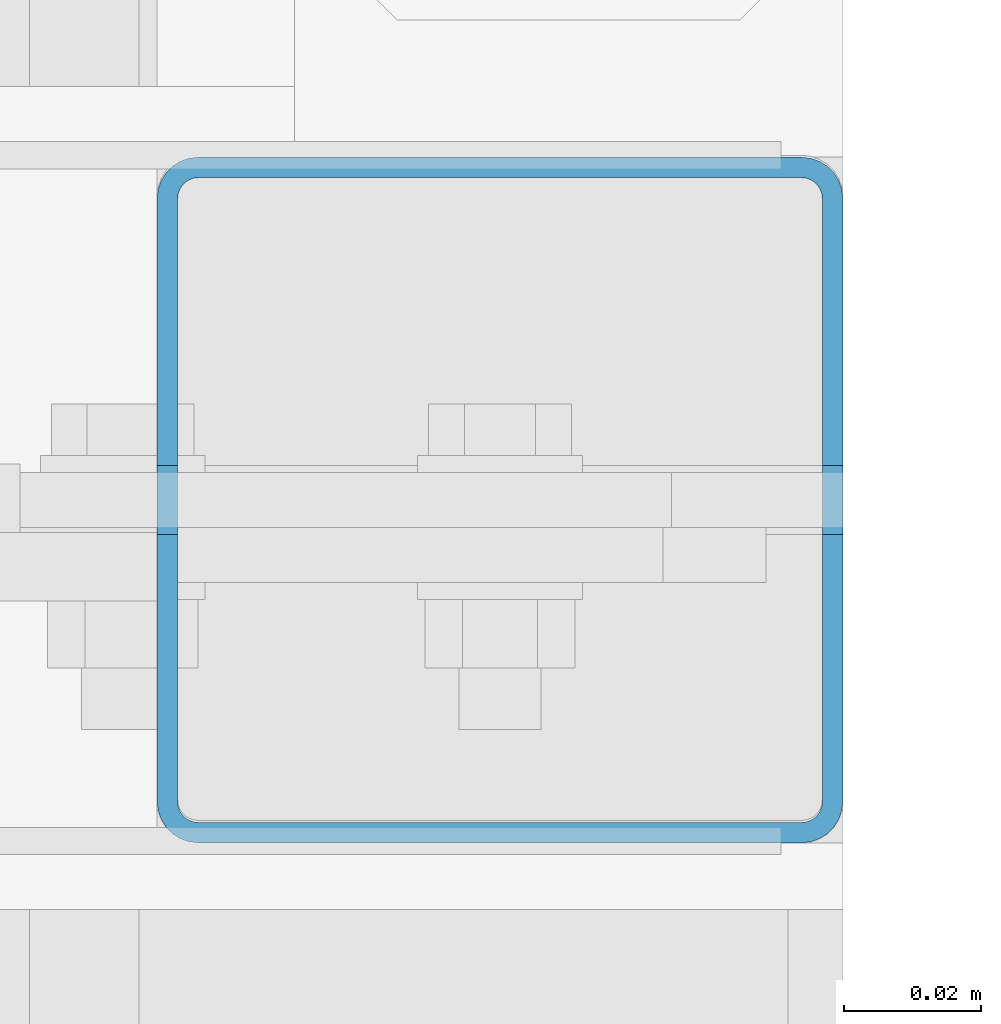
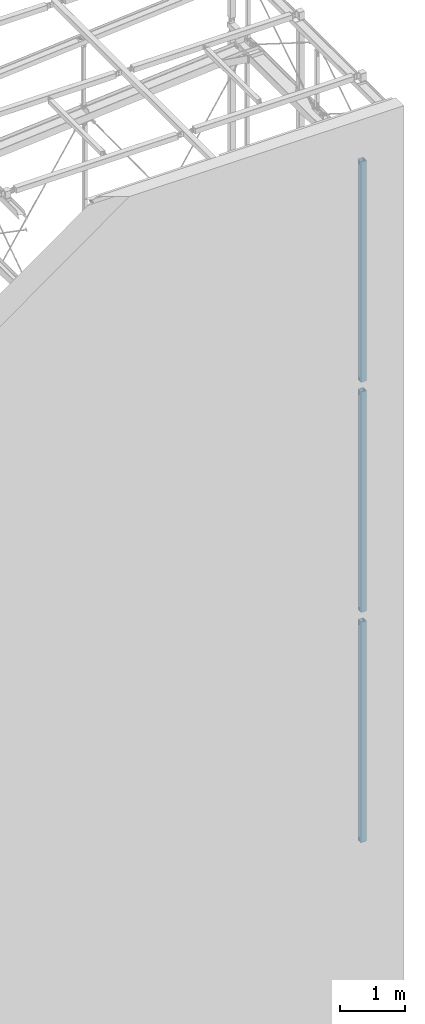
# One storey, part 41 of 271: 3 beams, 3 elements without a shape of their own.
"""IFC2X3 building model written with IfcOpenShell, lengths in millimetres."""

from ifc_helpers import new_model, si_unit, frame, origin_with_axes, origin_2d_with_axis, place, context, subcontext, project, spatial, polyline, hollow_rectangle, outline, extrude, boolean, halfspace, material, type_object, element, aggregate, save


model = new_model("IFC2X3")

# Units and contexts
model_context = context("Model", 3, precision=1e-05, world=origin_with_axes())
body_context = subcontext(model_context, "Body", "Model", "MODEL_VIEW")
ifc_project = project(units=[si_unit("LENGTHUNIT", "METRE", prefix="MILLI"), si_unit("AREAUNIT", "SQUARE_METRE"), si_unit("VOLUMEUNIT", "CUBIC_METRE"), si_unit("MASSUNIT", "GRAM", prefix="KILO"), si_unit("TIMEUNIT", "SECOND"), si_unit("PLANEANGLEUNIT", "RADIAN"), si_unit("SOLIDANGLEUNIT", "STERADIAN"), si_unit("THERMODYNAMICTEMPERATUREUNIT", "DEGREE_CELSIUS"), si_unit("LUMINOUSINTENSITYUNIT", "LUMEN")], contexts=[model_context])

# Site, building, storey
site_placement = place(None, origin_with_axes())
site = spatial("IfcSite", under=ifc_project, at=site_placement, Name="Undefined", CompositionType="ELEMENT")
building_placement = place(site_placement, origin_with_axes())
building = spatial("IfcBuilding", under=site, at=building_placement, Name="Undefined", CompositionType="ELEMENT")
storey_placement = place(building_placement, origin_with_axes())
storey = spatial("IfcBuildingStorey", under=building, at=storey_placement, Name="Undefined", CompositionType="ELEMENT", Elevation=0.0)

# Assembly, beam
assembly_1_placement = place(storey_placement, origin_with_axes())
assembly_1 = element("IfcElementAssembly", 1, at=assembly_1_placement, inside=storey, AssemblyPlace="NOTDEFINED", PredefinedType="RIGID_FRAME")
ifc_material = material(Name="STEEL/S355JR")
beam_type = type_object("IfcBeamType", Name="SHS100*3", PredefinedType="NOTDEFINED")
beam_1_placement = place(assembly_1_placement, frame((12658.3756870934, 899.052119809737, 14411.8499999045), z_axis=(0.0, 1.0, 0.0), x_axis=(0.0, 0.0, 1.0)))
beam_1 = element("IfcBeam", 2, at=beam_1_placement, type_object=beam_type, material=ifc_material, Name="RYGIEL", ObjectType="SHS100*3", context=body_context, shape_type="CSG", body=[
    boolean("DIFFERENCE", boolean("DIFFERENCE", boolean("DIFFERENCE", extrude(hollow_rectangle(XDim=100.0, YDim=100.0, WallThickness=3.0, InnerFilletRadius=3.0, OuterFilletRadius=6.0, at=origin_2d_with_axis()), frame((4141.0, 0.0, 0.0), z_axis=(-1.0, 0.0, 1.38777878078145e-17), x_axis=(0.0, -1.0, 0.0)), (0.0, 0.0, 1.0), 4141.0), extrude(outline(polyline([(0.0, 40.0), (80.0, 0.0), (151.0, -1.91135995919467e-12), (151.0, 120.0), (91.0, 120.0), (91.0, 150.0), (1.4210854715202e-14, 150.0), (0.0, 40.0)])), frame((4064.0, -99.9999999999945, -4.99999999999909), z_axis=(0.0, 0.0, 1.0), x_axis=(1.0, 0.0, 0.0)), (0.0, 0.0, 1.0), 10.0)), extrude(outline(polyline([(0.0, 40.0), (80.0, 0.0), (151.0, -1.91135995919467e-12), (151.0, 120.0), (91.0, 120.0), (91.0, 150.0), (1.4210854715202e-14, 150.0), (0.0, 40.0)])), frame((81.0000000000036, -99.9999999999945, 5.00000000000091), z_axis=(0.0, 0.0, -1.0), x_axis=(-1.0, 0.0, 1.38777878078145e-17)), (0.0, 0.0, 1.0), 10.0)), halfspace(frame((4.0, 0.0, -50.0), z_axis=(1.0, 0.0, 0.0), x_axis=(0.0, 0.0, 1.0)), True)),
])
aggregate(assembly_1, [beam_1])

assembly_2_placement = place(storey_placement, origin_with_axes())
assembly_2 = element("IfcElementAssembly", 3, at=assembly_2_placement, inside=storey, AssemblyPlace="NOTDEFINED", PredefinedType="RIGID_FRAME")
beam_2_placement = place(assembly_2_placement, frame((12658.3756870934, 899.052119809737, 10091.8499999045), z_axis=(0.0, 1.0, 0.0), x_axis=(0.0, 0.0, 1.0)))
beam_2 = element("IfcBeam", 4, at=beam_2_placement, type_object=beam_type, material=ifc_material, Name="RYGIEL", ObjectType="SHS100*3", context=body_context, shape_type="CSG", body=[
    boolean("DIFFERENCE", boolean("DIFFERENCE", boolean("DIFFERENCE", extrude(hollow_rectangle(XDim=100.0, YDim=100.0, WallThickness=3.0, InnerFilletRadius=3.0, OuterFilletRadius=6.0, at=origin_2d_with_axis()), frame((4141.0, 0.0, 0.0), z_axis=(-1.0, 0.0, 1.38777878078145e-17), x_axis=(0.0, -1.0, 0.0)), (0.0, 0.0, 1.0), 4141.0), extrude(outline(polyline([(0.0, 40.0), (80.0, 0.0), (151.0, -1.91135995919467e-12), (151.0, 120.0), (91.0, 120.0), (91.0, 150.0), (1.4210854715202e-14, 150.0), (0.0, 40.0)])), frame((4064.0, -99.9999999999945, -4.99999999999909), z_axis=(0.0, 0.0, 1.0), x_axis=(1.0, 0.0, 0.0)), (0.0, 0.0, 1.0), 10.0)), extrude(outline(polyline([(0.0, 40.0), (80.0, 0.0), (151.0, -1.91135995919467e-12), (151.0, 120.0), (91.0, 120.0), (91.0, 150.0), (1.4210854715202e-14, 150.0), (0.0, 40.0)])), frame((81.0000000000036, -99.9999999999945, 5.00000000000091), z_axis=(0.0, 0.0, -1.0), x_axis=(-1.0, 0.0, 1.38777878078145e-17)), (0.0, 0.0, 1.0), 10.0)), halfspace(frame((4.0, 0.0, -50.0), z_axis=(1.0, 0.0, 0.0), x_axis=(0.0, 0.0, 1.0)), True)),
])
aggregate(assembly_2, [beam_2])

assembly_3_placement = place(storey_placement, origin_with_axes())
assembly_3 = element("IfcElementAssembly", 5, at=assembly_3_placement, inside=storey, AssemblyPlace="NOTDEFINED", PredefinedType="RIGID_FRAME")
beam_3_placement = place(assembly_3_placement, frame((12658.3756870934, 899.052119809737, 5771.84999990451), z_axis=(0.0, 1.0, 0.0), x_axis=(0.0, 0.0, 1.0)))
beam_3 = element("IfcBeam", 6, at=beam_3_placement, type_object=beam_type, material=ifc_material, Name="RYGIEL", ObjectType="SHS100*3", context=body_context, shape_type="CSG", body=[
    boolean("DIFFERENCE", boolean("DIFFERENCE", boolean("DIFFERENCE", extrude(hollow_rectangle(XDim=100.0, YDim=100.0, WallThickness=3.0, InnerFilletRadius=3.0, OuterFilletRadius=6.0, at=origin_2d_with_axis()), frame((4141.0, 0.0, 0.0), z_axis=(-1.0, 0.0, 1.38777878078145e-17), x_axis=(0.0, -1.0, 0.0)), (0.0, 0.0, 1.0), 4141.0), extrude(outline(polyline([(0.0, 40.0), (80.0, 0.0), (151.0, -1.91135995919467e-12), (151.0, 120.0), (91.0, 120.0), (91.0, 150.0), (1.4210854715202e-14, 150.0), (0.0, 40.0)])), frame((4064.0, -99.9999999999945, -4.99999999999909), z_axis=(0.0, 0.0, 1.0), x_axis=(1.0, 0.0, 0.0)), (0.0, 0.0, 1.0), 10.0)), extrude(outline(polyline([(0.0, 40.0), (80.0, 0.0), (151.0, -1.91135995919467e-12), (151.0, 120.0), (91.0, 120.0), (91.0, 150.0), (1.4210854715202e-14, 150.0), (0.0, 40.0)])), frame((81.0000000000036, -99.9999999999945, 5.00000000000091), z_axis=(0.0, 0.0, -1.0), x_axis=(-1.0, 0.0, 1.38777878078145e-17)), (0.0, 0.0, 1.0), 10.0)), halfspace(frame((4.0, 0.0, -50.0), z_axis=(1.0, 0.0, 0.0), x_axis=(0.0, 0.0, 1.0)), True)),
])
aggregate(assembly_3, [beam_3])

save(model, "model.ifc")
